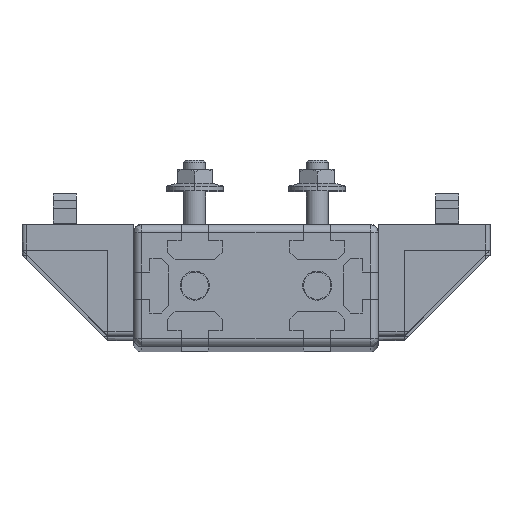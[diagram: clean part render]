
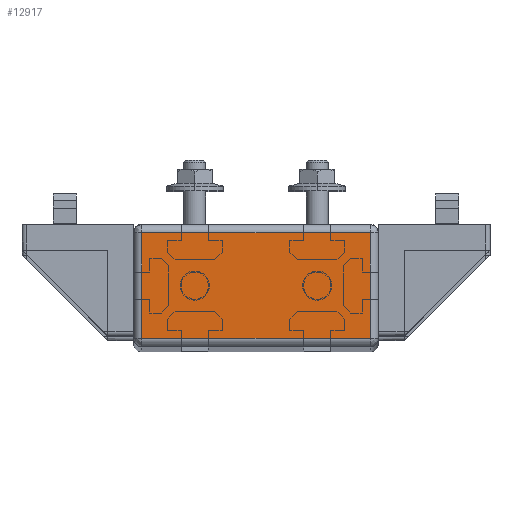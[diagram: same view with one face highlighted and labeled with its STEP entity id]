
A CAD part, top view. The second image highlights one B-rep face of the part: STEP entity #12917.
In plain terms, the highlighted planar face has unit normal (0, 0, 1).
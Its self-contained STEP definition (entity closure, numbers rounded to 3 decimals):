
#871 = DIRECTION ( 'NONE',  ( -1., 0., 0. ) ) ;
#1224 = EDGE_CURVE ( 'NONE', #16057, #22455, #13031, .T. ) ;
#1615 = LINE ( 'NONE', #3723, #17068 ) ;
#2362 = ORIENTED_EDGE ( 'NONE', *, *, #14006, .F. ) ;
#3594 = VECTOR ( 'NONE', #5432, 1000. ) ;
#3723 = CARTESIAN_POINT ( 'NONE',  ( -41.923, -22.5, 527.5 ) ) ;
#5099 = CARTESIAN_POINT ( 'NONE',  ( -41.923, -3.077, 527.5 ) ) ;
#5432 = DIRECTION ( 'NONE',  ( 0., -1., 0. ) ) ;
#5968 = CARTESIAN_POINT ( 'NONE',  ( 41.923, -41.923, 527.5 ) ) ;
#6139 = LINE ( 'NONE', #15844, #16821 ) ;
#6412 = CARTESIAN_POINT ( 'NONE',  ( 0., -22.5, 527.5 ) ) ;
#6894 = VECTOR ( 'NONE', #871, 1000. ) ;
#7114 = ORIENTED_EDGE ( 'NONE', *, *, #12639, .F. ) ;
#8031 = EDGE_CURVE ( 'NONE', #20853, #16057, #6139, .T. ) ;
#8514 = DIRECTION ( 'NONE',  ( 0., 0., -1. ) ) ;
#8556 = CARTESIAN_POINT ( 'NONE',  ( -41.923, -41.923, 527.5 ) ) ;
#10879 = CARTESIAN_POINT ( 'NONE',  ( 41.923, -3.077, 527.5 ) ) ;
#11220 = DIRECTION ( 'NONE',  ( 0., 1., 0. ) ) ;
#12073 = CARTESIAN_POINT ( 'NONE',  ( 0., -41.923, 527.5 ) ) ;
#12143 = DIRECTION ( 'NONE',  ( 1., 0., 0. ) ) ;
#12639 = EDGE_CURVE ( 'NONE', #20693, #20853, #1615, .T. ) ;
#12917 = ADVANCED_FACE ( 'NONE', ( #19447 ), #19666, .F. ) ;
#13031 = LINE ( 'NONE', #14879, #3594 ) ;
#13243 = EDGE_LOOP ( 'NONE', ( #21259, #17980, #7114, #2362 ) ) ;
#14006 = EDGE_CURVE ( 'NONE', #22455, #20693, #16240, .T. ) ;
#14879 = CARTESIAN_POINT ( 'NONE',  ( 41.923, -22.5, 527.5 ) ) ;
#15844 = CARTESIAN_POINT ( 'NONE',  ( 0., -3.077, 527.5 ) ) ;
#16057 = VERTEX_POINT ( 'NONE', #10879 ) ;
#16240 = LINE ( 'NONE', #12073, #6894 ) ;
#16821 = VECTOR ( 'NONE', #12143, 1000. ) ;
#17068 = VECTOR ( 'NONE', #11220, 1000. ) ;
#17980 = ORIENTED_EDGE ( 'NONE', *, *, #8031, .F. ) ;
#19447 = FACE_OUTER_BOUND ( 'NONE', #13243, .T. ) ;
#19666 = PLANE ( 'NONE',  #20595 ) ;
#19803 = DIRECTION ( 'NONE',  ( 0., 1., 0. ) ) ;
#20595 = AXIS2_PLACEMENT_3D ( 'NONE', #6412, #8514, #19803 ) ;
#20693 = VERTEX_POINT ( 'NONE', #8556 ) ;
#20853 = VERTEX_POINT ( 'NONE', #5099 ) ;
#21259 = ORIENTED_EDGE ( 'NONE', *, *, #1224, .F. ) ;
#22455 = VERTEX_POINT ( 'NONE', #5968 ) ;
